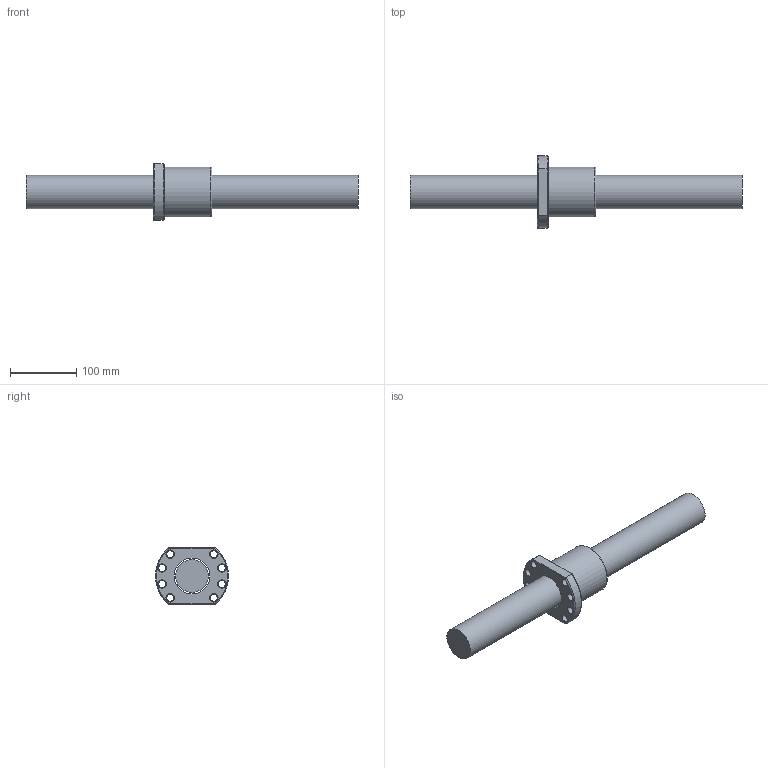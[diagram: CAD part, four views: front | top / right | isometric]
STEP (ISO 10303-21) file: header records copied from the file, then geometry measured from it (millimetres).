
FILE_DESCRIPTION (( 'STEP AP203' ), '1' );
FILE_NAME ('SFNU05010D-4.step', '2024-05-14T06:34:48', ( '' ), ( '' ), 'SwSTEP 2.0', 'SolidWorks 2022', '' );
FILE_SCHEMA (( 'CONFIG_CONTROL_DESIGN' ));
Length unit declared in the file: millimetre
Products named in the file (1): SFNU05010D-4
Bounding box: 500 x 109.65 x 85 mm (x, y, z)
Volume: 1217165.1 mm3; surface area: 134354.7 mm2
Topology: 2 solids, 2 shells, 60 faces, 155 edges, 100 vertices
Faces by surface type: cylinder 21, cone 17, plane 12, bspline 5, torus 5
Full cylindrical faces by diameter (mm): 4 x1, 7 x6, 11 x8, 50 x1, 54.1 x1, 75 x1
Entity records: 3355 total; most frequent: CARTESIAN_POINT 2193, DIRECTION 214, ORIENTED_EDGE 182, EDGE_LOOP 106, AXIS2_PLACEMENT_3D 99, EDGE_CURVE 91, VERTEX_POINT 75, FACE_OUTER_BOUND 68
